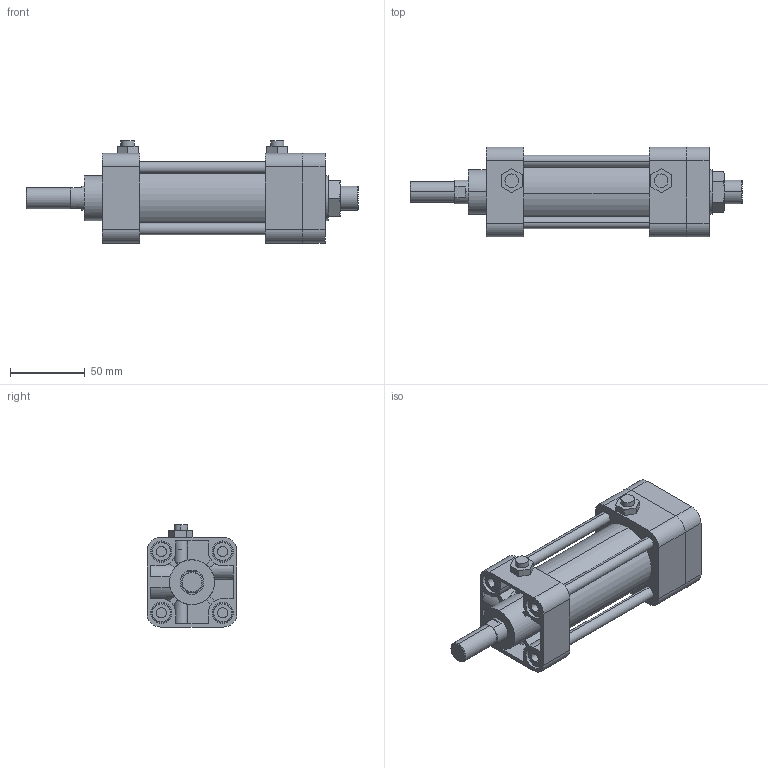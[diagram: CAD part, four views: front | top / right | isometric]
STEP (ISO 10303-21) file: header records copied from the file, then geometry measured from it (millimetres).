
FILE_DESCRIPTION (( 'STEP AP203' ), '1' );
FILE_NAME ('KGA2-40#-50-N.STEP', '2016-04-14T07:12:46', ( '' ), ( '' ), 'SwSTEP 2.0', 'SolidWorks 2014', '' );
FILE_SCHEMA (( 'CONFIG_CONTROL_DESIGN' ));
Length unit declared in the file: millimetre
Products named in the file (7): KGLH2-40-50; KG2-40-After; KGA2-40#-50-N; KGA2-40-After
Assembly tree (16 placements, depth 2):
  KGA2-40#-50-N
    KG2-40-After
    KGLH2-40-50
    (unnamed)
    (unnamed)  x4
    (unnamed)  x8
    KGA2-40-After
Bounding box: 222 x 60 x 68.3 mm (x, y, z)
Volume: 361836.4 mm3; surface area: 97280.8 mm2
Topology: 16 solids, 21 shells, 368 faces, 851 edges, 543 vertices
Faces by surface type: plane 156, cylinder 146, torus 38, cone 28
Entity records: 9522 total; most frequent: CARTESIAN_POINT 1922, DIRECTION 1437, ORIENTED_EDGE 1322, EDGE_CURVE 661, AXIS2_PLACEMENT_3D 541, VERTEX_POINT 433, LINE 355, VECTOR 355
